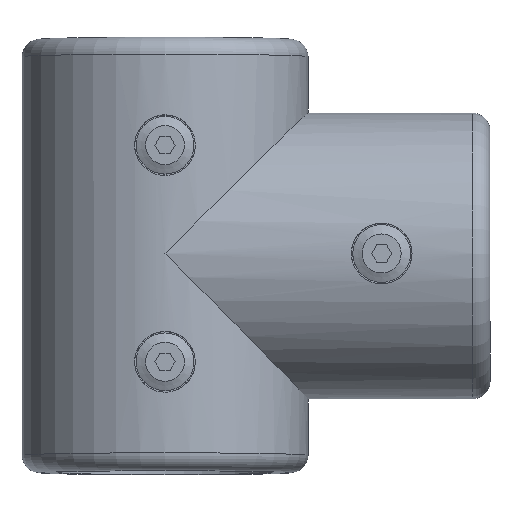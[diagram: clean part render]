
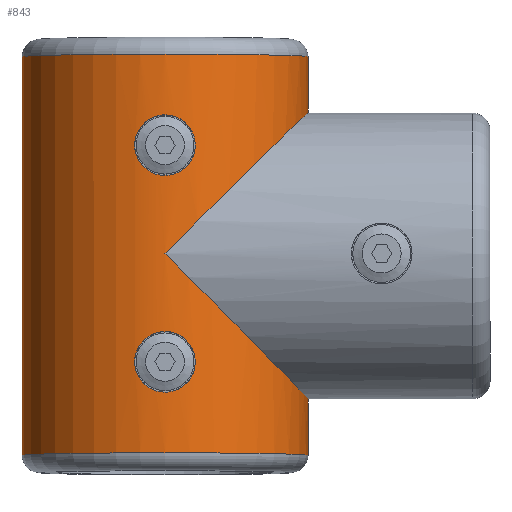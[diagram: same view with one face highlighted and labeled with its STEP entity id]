
A CAD part, front view. The second image highlights one B-rep face of the part: STEP entity #843.
In plain terms, the highlighted cylindrical face has radius 33 mm (diameter 66 mm), a partial arc.
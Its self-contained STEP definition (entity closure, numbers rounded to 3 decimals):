
#55=FACE_BOUND('',#309,.T.);
#56=FACE_BOUND('',#310,.T.);
#69=B_SPLINE_CURVE_WITH_KNOTS('',3,(#1378,#1379,#1380,#1381,#1382,#1383,
#1384,#1385,#1386,#1387,#1388,#1389,#1390,#1391,#1392,#1393,#1394,#1395),
 .UNSPECIFIED.,.F.,.F.,(4,2,2,2,2,2,2,2,4),(1.058,1.323,
1.587,1.852,2.116,2.381,2.645,
2.91,3.175),.UNSPECIFIED.);
#70=B_SPLINE_CURVE_WITH_KNOTS('',3,(#1397,#1398,#1399,#1400,#1401,#1402,
#1403,#1404,#1405,#1406),.UNSPECIFIED.,.F.,.F.,(4,2,2,2,4),(3.175,
3.439,3.704,3.968,4.233),
 .UNSPECIFIED.);
#71=B_SPLINE_CURVE_WITH_KNOTS('',3,(#1407,#1408,#1409,#1410,#1411,#1412,
#1413,#1414,#1415,#1416),.UNSPECIFIED.,.F.,.F.,(4,2,2,2,4),(4.233,
4.497,4.762,5.026,5.291),
 .UNSPECIFIED.);
#72=B_SPLINE_CURVE_WITH_KNOTS('',3,(#1419,#1420,#1421,#1422,#1423,#1424,
#1425,#1426,#1427,#1428,#1429,#1430,#1431,#1432,#1433,#1434,#1435,#1436),
 .UNSPECIFIED.,.F.,.F.,(4,2,2,2,2,2,2,2,4),(1.058,1.323,
1.587,1.852,2.116,2.381,2.645,
2.91,3.175),.UNSPECIFIED.);
#73=B_SPLINE_CURVE_WITH_KNOTS('',3,(#1438,#1439,#1440,#1441,#1442,#1443,
#1444,#1445,#1446,#1447),.UNSPECIFIED.,.F.,.F.,(4,2,2,2,4),(3.175,
3.439,3.704,3.968,4.233),
 .UNSPECIFIED.);
#74=B_SPLINE_CURVE_WITH_KNOTS('',3,(#1448,#1449,#1450,#1451,#1452,#1453,
#1454,#1455,#1456,#1457),.UNSPECIFIED.,.F.,.F.,(4,2,2,2,4),(4.233,
4.497,4.762,5.026,5.291),
 .UNSPECIFIED.);
#83=ELLIPSE('',#989,46.669,33.);
#84=ELLIPSE('',#990,46.669,33.);
#87=CYLINDRICAL_SURFACE('',#987,33.);
#100=LINE('',#1354,#163);
#106=LINE('',#1368,#169);
#107=LINE('',#1372,#170);
#163=VECTOR('',#1094,10.);
#169=VECTOR('',#1104,10.);
#170=VECTOR('',#1107,10.);
#258=FACE_OUTER_BOUND('',#308,.T.);
#308=EDGE_LOOP('',(#616,#617,#618,#619,#620,#621,#622));
#309=EDGE_LOOP('',(#623,#624,#625));
#310=EDGE_LOOP('',(#626,#627,#628));
#373=CIRCLE('',#984,33.);
#375=CIRCLE('',#988,33.);
#406=VERTEX_POINT('',#1344);
#409=VERTEX_POINT('',#1349);
#410=VERTEX_POINT('',#1353);
#416=VERTEX_POINT('',#1367);
#417=VERTEX_POINT('',#1369);
#418=VERTEX_POINT('',#1371);
#419=VERTEX_POINT('',#1373);
#420=VERTEX_POINT('',#1376);
#421=VERTEX_POINT('',#1377);
#422=VERTEX_POINT('',#1396);
#423=VERTEX_POINT('',#1417);
#424=VERTEX_POINT('',#1418);
#425=VERTEX_POINT('',#1437);
#490=EDGE_CURVE('',#409,#406,#373,.T.);
#491=EDGE_CURVE('',#410,#406,#100,.T.);
#498=EDGE_CURVE('',#409,#416,#106,.T.);
#499=EDGE_CURVE('',#417,#416,#375,.T.);
#500=EDGE_CURVE('',#417,#418,#107,.T.);
#501=EDGE_CURVE('',#418,#419,#83,.T.);
#502=EDGE_CURVE('',#419,#410,#84,.T.);
#503=EDGE_CURVE('',#420,#421,#69,.T.);
#504=EDGE_CURVE('',#421,#422,#70,.T.);
#505=EDGE_CURVE('',#422,#420,#71,.T.);
#506=EDGE_CURVE('',#423,#424,#72,.T.);
#507=EDGE_CURVE('',#424,#425,#73,.T.);
#508=EDGE_CURVE('',#425,#423,#74,.T.);
#616=ORIENTED_EDGE('',*,*,#490,.F.);
#617=ORIENTED_EDGE('',*,*,#498,.T.);
#618=ORIENTED_EDGE('',*,*,#499,.F.);
#619=ORIENTED_EDGE('',*,*,#500,.T.);
#620=ORIENTED_EDGE('',*,*,#501,.T.);
#621=ORIENTED_EDGE('',*,*,#502,.T.);
#622=ORIENTED_EDGE('',*,*,#491,.T.);
#623=ORIENTED_EDGE('',*,*,#503,.T.);
#624=ORIENTED_EDGE('',*,*,#504,.T.);
#625=ORIENTED_EDGE('',*,*,#505,.T.);
#626=ORIENTED_EDGE('',*,*,#506,.T.);
#627=ORIENTED_EDGE('',*,*,#507,.T.);
#628=ORIENTED_EDGE('',*,*,#508,.T.);
#843=ADVANCED_FACE('',(#258,#55,#56),#87,.T.);
#984=AXIS2_PLACEMENT_3D('',#1351,#1090,#1091);
#987=AXIS2_PLACEMENT_3D('',#1366,#1102,#1103);
#988=AXIS2_PLACEMENT_3D('',#1370,#1105,#1106);
#989=AXIS2_PLACEMENT_3D('',#1374,#1108,#1109);
#990=AXIS2_PLACEMENT_3D('',#1375,#1110,#1111);
#1090=DIRECTION('center_axis',(0.,0.,-1.));
#1091=DIRECTION('ref_axis',(0.,1.,0.));
#1094=DIRECTION('',(0.,0.,-1.));
#1102=DIRECTION('center_axis',(0.,0.,1.));
#1103=DIRECTION('ref_axis',(1.,0.,0.));
#1104=DIRECTION('',(0.,0.,1.));
#1105=DIRECTION('center_axis',(0.,0.,1.));
#1106=DIRECTION('ref_axis',(0.,1.,0.));
#1107=DIRECTION('',(0.,0.,-1.));
#1108=DIRECTION('center_axis',(-0.707,0.,0.707));
#1109=DIRECTION('ref_axis',(-0.707,0.,-0.707));
#1110=DIRECTION('center_axis',(-0.707,0.,-0.707));
#1111=DIRECTION('ref_axis',(0.707,0.,-0.707));
#1344=CARTESIAN_POINT('',(33.,0.,-46.));
#1349=CARTESIAN_POINT('',(-33.,0.,-46.));
#1351=CARTESIAN_POINT('Origin',(0.,0.,-46.));
#1353=CARTESIAN_POINT('',(33.,0.,-33.));
#1354=CARTESIAN_POINT('',(33.,0.,0.));
#1366=CARTESIAN_POINT('Origin',(0.,0.,0.));
#1367=CARTESIAN_POINT('',(-33.,0.,46.));
#1368=CARTESIAN_POINT('',(-33.,0.,0.));
#1369=CARTESIAN_POINT('',(33.,0.,46.));
#1370=CARTESIAN_POINT('Origin',(0.,0.,46.));
#1371=CARTESIAN_POINT('',(33.,0.,33.));
#1372=CARTESIAN_POINT('',(33.,0.,0.));
#1373=CARTESIAN_POINT('',(0.,33.,0.));
#1374=CARTESIAN_POINT('Origin',(0.,0.,0.));
#1375=CARTESIAN_POINT('Origin',(0.,0.,0.));
#1376=CARTESIAN_POINT('',(0.,33.,-18.));
#1377=CARTESIAN_POINT('',(0.,33.,-32.));
#1378=CARTESIAN_POINT('Ctrl Pts',(0.,33.,-18.));
#1379=CARTESIAN_POINT('Ctrl Pts',(-0.882,33.,-18.));
#1380=CARTESIAN_POINT('Ctrl Pts',(-1.821,32.961,-18.177));
#1381=CARTESIAN_POINT('Ctrl Pts',(-3.544,32.82,-18.892));
#1382=CARTESIAN_POINT('Ctrl Pts',(-4.33,32.721,-19.43));
#1383=CARTESIAN_POINT('Ctrl Pts',(-5.57,32.533,-20.67));
#1384=CARTESIAN_POINT('Ctrl Pts',(-6.108,32.432,-21.456));
#1385=CARTESIAN_POINT('Ctrl Pts',(-6.823,32.289,-23.179));
#1386=CARTESIAN_POINT('Ctrl Pts',(-7.,32.249,-24.118));
#1387=CARTESIAN_POINT('Ctrl Pts',(-7.,32.249,-25.882));
#1388=CARTESIAN_POINT('Ctrl Pts',(-6.823,32.289,-26.821));
#1389=CARTESIAN_POINT('Ctrl Pts',(-6.108,32.432,-28.544));
#1390=CARTESIAN_POINT('Ctrl Pts',(-5.57,32.533,-29.33));
#1391=CARTESIAN_POINT('Ctrl Pts',(-4.33,32.721,-30.57));
#1392=CARTESIAN_POINT('Ctrl Pts',(-3.544,32.82,-31.108));
#1393=CARTESIAN_POINT('Ctrl Pts',(-1.821,32.961,-31.823));
#1394=CARTESIAN_POINT('Ctrl Pts',(-0.882,33.,-32.));
#1395=CARTESIAN_POINT('Ctrl Pts',(0.,33.,-32.));
#1396=CARTESIAN_POINT('',(7.,32.249,-25.));
#1397=CARTESIAN_POINT('Ctrl Pts',(0.,33.,-32.));
#1398=CARTESIAN_POINT('Ctrl Pts',(0.882,33.,-32.));
#1399=CARTESIAN_POINT('Ctrl Pts',(1.821,32.961,-31.823));
#1400=CARTESIAN_POINT('Ctrl Pts',(3.544,32.82,-31.108));
#1401=CARTESIAN_POINT('Ctrl Pts',(4.33,32.721,-30.57));
#1402=CARTESIAN_POINT('Ctrl Pts',(5.57,32.533,-29.33));
#1403=CARTESIAN_POINT('Ctrl Pts',(6.108,32.432,-28.544));
#1404=CARTESIAN_POINT('Ctrl Pts',(6.823,32.289,-26.821));
#1405=CARTESIAN_POINT('Ctrl Pts',(7.,32.249,-25.882));
#1406=CARTESIAN_POINT('Ctrl Pts',(7.,32.249,-25.));
#1407=CARTESIAN_POINT('Ctrl Pts',(7.,32.249,-25.));
#1408=CARTESIAN_POINT('Ctrl Pts',(7.,32.249,-24.118));
#1409=CARTESIAN_POINT('Ctrl Pts',(6.823,32.289,-23.179));
#1410=CARTESIAN_POINT('Ctrl Pts',(6.108,32.432,-21.456));
#1411=CARTESIAN_POINT('Ctrl Pts',(5.57,32.533,-20.67));
#1412=CARTESIAN_POINT('Ctrl Pts',(4.33,32.721,-19.43));
#1413=CARTESIAN_POINT('Ctrl Pts',(3.544,32.82,-18.892));
#1414=CARTESIAN_POINT('Ctrl Pts',(1.821,32.961,-18.177));
#1415=CARTESIAN_POINT('Ctrl Pts',(0.882,33.,-18.));
#1416=CARTESIAN_POINT('Ctrl Pts',(0.,33.,-18.));
#1417=CARTESIAN_POINT('',(0.,33.,32.));
#1418=CARTESIAN_POINT('',(0.,33.,18.));
#1419=CARTESIAN_POINT('Ctrl Pts',(0.,33.,32.));
#1420=CARTESIAN_POINT('Ctrl Pts',(-0.882,33.,32.));
#1421=CARTESIAN_POINT('Ctrl Pts',(-1.821,32.961,31.823));
#1422=CARTESIAN_POINT('Ctrl Pts',(-3.544,32.82,31.108));
#1423=CARTESIAN_POINT('Ctrl Pts',(-4.33,32.721,30.57));
#1424=CARTESIAN_POINT('Ctrl Pts',(-5.57,32.533,29.33));
#1425=CARTESIAN_POINT('Ctrl Pts',(-6.108,32.432,28.544));
#1426=CARTESIAN_POINT('Ctrl Pts',(-6.823,32.289,26.821));
#1427=CARTESIAN_POINT('Ctrl Pts',(-7.,32.249,25.882));
#1428=CARTESIAN_POINT('Ctrl Pts',(-7.,32.249,24.118));
#1429=CARTESIAN_POINT('Ctrl Pts',(-6.823,32.289,23.179));
#1430=CARTESIAN_POINT('Ctrl Pts',(-6.108,32.432,21.456));
#1431=CARTESIAN_POINT('Ctrl Pts',(-5.57,32.533,20.67));
#1432=CARTESIAN_POINT('Ctrl Pts',(-4.33,32.721,19.43));
#1433=CARTESIAN_POINT('Ctrl Pts',(-3.544,32.82,18.892));
#1434=CARTESIAN_POINT('Ctrl Pts',(-1.821,32.961,18.177));
#1435=CARTESIAN_POINT('Ctrl Pts',(-0.882,33.,18.));
#1436=CARTESIAN_POINT('Ctrl Pts',(0.,33.,18.));
#1437=CARTESIAN_POINT('',(7.,32.249,25.));
#1438=CARTESIAN_POINT('Ctrl Pts',(0.,33.,18.));
#1439=CARTESIAN_POINT('Ctrl Pts',(0.882,33.,18.));
#1440=CARTESIAN_POINT('Ctrl Pts',(1.821,32.961,18.177));
#1441=CARTESIAN_POINT('Ctrl Pts',(3.544,32.82,18.892));
#1442=CARTESIAN_POINT('Ctrl Pts',(4.33,32.721,19.43));
#1443=CARTESIAN_POINT('Ctrl Pts',(5.57,32.533,20.67));
#1444=CARTESIAN_POINT('Ctrl Pts',(6.108,32.432,21.456));
#1445=CARTESIAN_POINT('Ctrl Pts',(6.823,32.289,23.179));
#1446=CARTESIAN_POINT('Ctrl Pts',(7.,32.249,24.118));
#1447=CARTESIAN_POINT('Ctrl Pts',(7.,32.249,25.));
#1448=CARTESIAN_POINT('Ctrl Pts',(7.,32.249,25.));
#1449=CARTESIAN_POINT('Ctrl Pts',(7.,32.249,25.882));
#1450=CARTESIAN_POINT('Ctrl Pts',(6.823,32.289,26.821));
#1451=CARTESIAN_POINT('Ctrl Pts',(6.108,32.432,28.544));
#1452=CARTESIAN_POINT('Ctrl Pts',(5.57,32.533,29.33));
#1453=CARTESIAN_POINT('Ctrl Pts',(4.33,32.721,30.57));
#1454=CARTESIAN_POINT('Ctrl Pts',(3.544,32.82,31.108));
#1455=CARTESIAN_POINT('Ctrl Pts',(1.821,32.961,31.823));
#1456=CARTESIAN_POINT('Ctrl Pts',(0.882,33.,32.));
#1457=CARTESIAN_POINT('Ctrl Pts',(0.,33.,32.));
